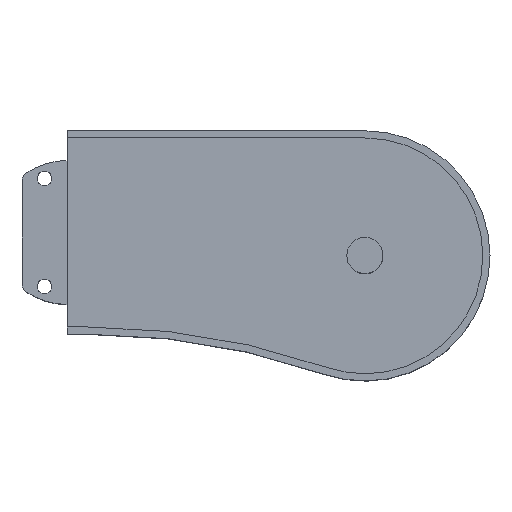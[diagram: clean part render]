
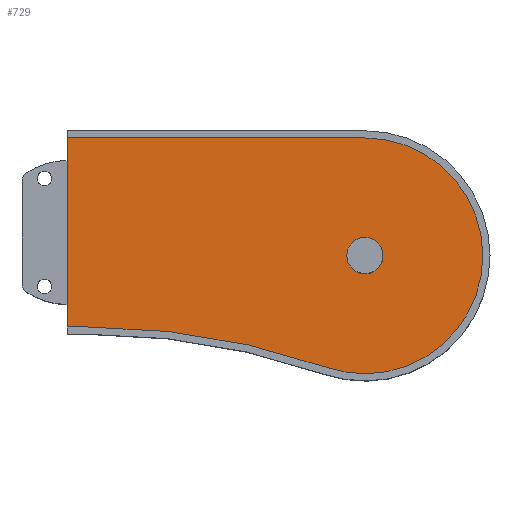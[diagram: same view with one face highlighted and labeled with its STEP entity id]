
A CAD part, top view. The second image highlights one B-rep face of the part: STEP entity #729.
In plain terms, the highlighted planar face has unit normal (0, 0, 1).
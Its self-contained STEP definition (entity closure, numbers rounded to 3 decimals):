
#30 = CARTESIAN_POINT ( 'NONE',  ( -69.5, -69.5, 42.5 ) ) ;
#45 = LINE ( 'NONE', #686, #80 ) ;
#77 = VERTEX_POINT ( 'NONE', #300 ) ;
#80 = VECTOR ( 'NONE', #654, 1000. ) ;
#86 = DIRECTION ( 'NONE',  ( 0., 0., -1. ) ) ;
#121 = DIRECTION ( 'NONE',  ( 0., 0., 1. ) ) ;
#217 = CIRCLE ( 'NONE', #227, 10. ) ;
#219 = CARTESIAN_POINT ( 'NONE',  ( -90.995, -131.373, 42.5 ) ) ;
#224 = LINE ( 'NONE', #1406, #275 ) ;
#227 = AXIS2_PLACEMENT_3D ( 'NONE', #381, #422, #435 ) ;
#234 = FACE_BOUND ( 'NONE', #594, .T. ) ;
#255 = VECTOR ( 'NONE', #1435, 1000. ) ;
#262 = CIRCLE ( 'NONE', #345, 10. ) ;
#268 = LINE ( 'NONE', #1423, #255 ) ;
#275 = VECTOR ( 'NONE', #1410, 1000. ) ;
#288 = VERTEX_POINT ( 'NONE', #553 ) ;
#298 = VERTEX_POINT ( 'NONE', #991 ) ;
#300 = CARTESIAN_POINT ( 'NONE',  ( -223.571, -109., 42.5 ) ) ;
#345 = AXIS2_PLACEMENT_3D ( 'NONE', #1339, #1344, #1351 ) ;
#381 = CARTESIAN_POINT ( 'NONE',  ( -69.5, -69.5, 42.5 ) ) ;
#388 = CIRCLE ( 'NONE', #588, 65.5 ) ;
#412 = CARTESIAN_POINT ( 'NONE',  ( -79.5, -69.5, 42.5 ) ) ;
#416 = CARTESIAN_POINT ( 'NONE',  ( -235., -4., 42.5 ) ) ;
#422 = DIRECTION ( 'NONE',  ( 0., 0., -1. ) ) ;
#432 = VERTEX_POINT ( 'NONE', #1013 ) ;
#435 = DIRECTION ( 'NONE',  ( -1., 0., 0. ) ) ;
#451 = VERTEX_POINT ( 'NONE', #219 ) ;
#506 = EDGE_LOOP ( 'NONE', ( #1268, #1262, #1414, #1259, #1256 ) ) ;
#549 = CIRCLE ( 'NONE', #579, 404. ) ;
#553 = CARTESIAN_POINT ( 'NONE',  ( -235., -109., 42.5 ) ) ;
#556 = DIRECTION ( 'NONE',  ( 1., 0., 0. ) ) ;
#579 = AXIS2_PLACEMENT_3D ( 'NONE', #1437, #121, #556 ) ;
#588 = AXIS2_PLACEMENT_3D ( 'NONE', #1284, #1347, #1394 ) ;
#594 = EDGE_LOOP ( 'NONE', ( #1297, #1260 ) ) ;
#654 = DIRECTION ( 'NONE',  ( 0., -1., 0. ) ) ;
#686 = CARTESIAN_POINT ( 'NONE',  ( -235., -16.5, 42.5 ) ) ;
#729 = ADVANCED_FACE ( 'NONE', ( #234, #909 ), #1100, .F. ) ;
#909 = FACE_OUTER_BOUND ( 'NONE', #506, .T. ) ;
#940 = VERTEX_POINT ( 'NONE', #416 ) ;
#991 = CARTESIAN_POINT ( 'NONE',  ( -69.5, -4., 42.5 ) ) ;
#1013 = CARTESIAN_POINT ( 'NONE',  ( -59.5, -69.5, 42.5 ) ) ;
#1023 = VERTEX_POINT ( 'NONE', #412 ) ;
#1029 = AXIS2_PLACEMENT_3D ( 'NONE', #30, #86, #1359 ) ;
#1100 = PLANE ( 'NONE',  #1029 ) ;
#1101 = EDGE_CURVE ( 'NONE', #298, #451, #388, .T. ) ;
#1105 = EDGE_CURVE ( 'NONE', #451, #77, #549, .T. ) ;
#1150 = EDGE_CURVE ( 'NONE', #940, #288, #45, .T. ) ;
#1256 = ORIENTED_EDGE ( 'NONE', *, *, #1150, .T. ) ;
#1259 = ORIENTED_EDGE ( 'NONE', *, *, #1311, .T. ) ;
#1260 = ORIENTED_EDGE ( 'NONE', *, *, #1360, .T. ) ;
#1262 = ORIENTED_EDGE ( 'NONE', *, *, #1105, .F. ) ;
#1268 = ORIENTED_EDGE ( 'NONE', *, *, #1318, .F. ) ;
#1284 = CARTESIAN_POINT ( 'NONE',  ( -69.5, -69.5, 42.5 ) ) ;
#1289 = EDGE_CURVE ( 'NONE', #432, #1023, #262, .T. ) ;
#1297 = ORIENTED_EDGE ( 'NONE', *, *, #1289, .T. ) ;
#1311 = EDGE_CURVE ( 'NONE', #298, #940, #224, .T. ) ;
#1318 = EDGE_CURVE ( 'NONE', #77, #288, #268, .T. ) ;
#1339 = CARTESIAN_POINT ( 'NONE',  ( -69.5, -69.5, 42.5 ) ) ;
#1344 = DIRECTION ( 'NONE',  ( 0., 0., -1. ) ) ;
#1347 = DIRECTION ( 'NONE',  ( 0., 0., -1. ) ) ;
#1351 = DIRECTION ( 'NONE',  ( -1., 0., 0. ) ) ;
#1359 = DIRECTION ( 'NONE',  ( -1., 0., 0. ) ) ;
#1360 = EDGE_CURVE ( 'NONE', #1023, #432, #217, .T. ) ;
#1394 = DIRECTION ( 'NONE',  ( -1., 0., 0. ) ) ;
#1406 = CARTESIAN_POINT ( 'NONE',  ( -69.5, -4., 42.5 ) ) ;
#1410 = DIRECTION ( 'NONE',  ( -1., 0., 0. ) ) ;
#1414 = ORIENTED_EDGE ( 'NONE', *, *, #1101, .F. ) ;
#1423 = CARTESIAN_POINT ( 'NONE',  ( -223.571, -109., 42.5 ) ) ;
#1435 = DIRECTION ( 'NONE',  ( -1., 0., 0. ) ) ;
#1437 = CARTESIAN_POINT ( 'NONE',  ( -223.571, -513., 42.5 ) ) ;
